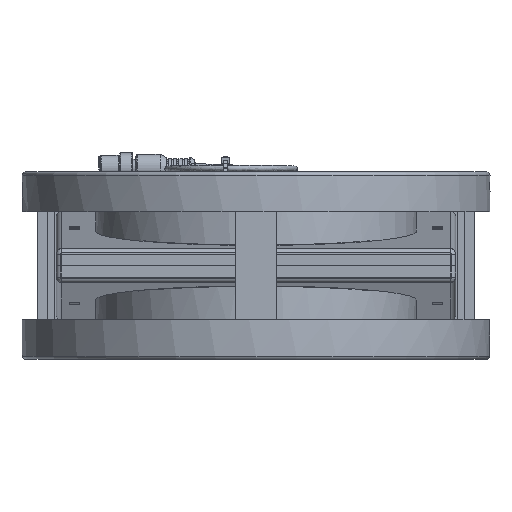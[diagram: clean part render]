
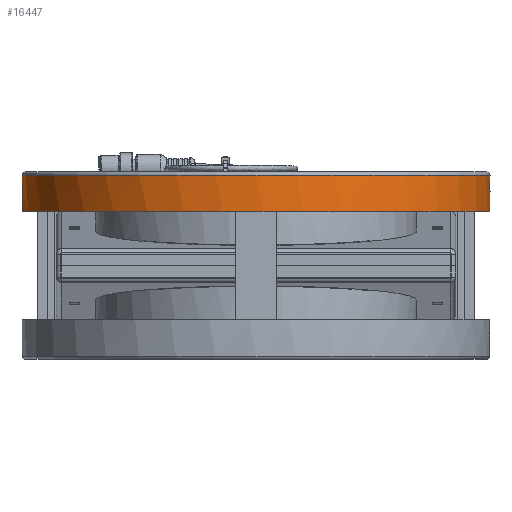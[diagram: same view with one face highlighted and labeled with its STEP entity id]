
A CAD part, front view. The second image highlights one B-rep face of the part: STEP entity #16447.
In plain terms, the highlighted cylindrical face has radius 112.4 mm (diameter 224.8 mm), a full revolution.
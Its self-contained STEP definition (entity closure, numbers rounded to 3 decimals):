
#4735=CIRCLE('',#57945,112.4);
#4736=CIRCLE('',#57948,112.4);
#4737=CIRCLE('',#57950,112.4);
#4738=CIRCLE('',#57953,112.4);
#14873=CYLINDRICAL_SURFACE('',#57955,112.4);
#15620=FACE_BOUND('',#22887,.T.);
#15621=FACE_BOUND('',#22888,.T.);
#15622=FACE_BOUND('',#22889,.T.);
#15623=FACE_BOUND('',#22890,.T.);
#16447=ADVANCED_FACE('',(#15620,#15621,#15622,#15623),#14873,.T.);
#22887=EDGE_LOOP('',(#26893,#26894,#26895));
#22888=EDGE_LOOP('',(#26896,#26897,#26898));
#22889=EDGE_LOOP('',(#26899));
#22890=EDGE_LOOP('',(#26900,#26901));
#25672=ELLIPSE('',#57947,224.8,112.4);
#25673=ELLIPSE('',#57949,224.8,112.4);
#25674=ELLIPSE('',#57951,224.8,112.4);
#25675=ELLIPSE('',#57952,224.8,112.4);
#25676=ELLIPSE('',#57954,112.829,112.4);
#26893=ORIENTED_EDGE('',*,*,#43949,.T.);
#26894=ORIENTED_EDGE('',*,*,#43950,.T.);
#26895=ORIENTED_EDGE('',*,*,#43951,.T.);
#26896=ORIENTED_EDGE('',*,*,#43952,.T.);
#26897=ORIENTED_EDGE('',*,*,#43953,.T.);
#26898=ORIENTED_EDGE('',*,*,#43954,.T.);
#26899=ORIENTED_EDGE('',*,*,#43955,.F.);
#26900=ORIENTED_EDGE('',*,*,#43948,.T.);
#26901=ORIENTED_EDGE('',*,*,#43956,.F.);
#39435=VERTEX_POINT('',#77294);
#39436=VERTEX_POINT('',#77295);
#39437=VERTEX_POINT('',#77299);
#39438=VERTEX_POINT('',#77300);
#39439=VERTEX_POINT('',#77302);
#39440=VERTEX_POINT('',#77305);
#39441=VERTEX_POINT('',#77306);
#39442=VERTEX_POINT('',#77308);
#39443=VERTEX_POINT('',#77311);
#43948=EDGE_CURVE('',#39436,#39435,#4735,.T.);
#43949=EDGE_CURVE('',#39437,#39438,#25672,.T.);
#43950=EDGE_CURVE('',#39438,#39439,#4736,.T.);
#43951=EDGE_CURVE('',#39439,#39437,#25673,.T.);
#43952=EDGE_CURVE('',#39440,#39441,#4737,.T.);
#43953=EDGE_CURVE('',#39441,#39442,#25674,.T.);
#43954=EDGE_CURVE('',#39442,#39440,#25675,.T.);
#43955=EDGE_CURVE('',#39443,#39443,#4738,.T.);
#43956=EDGE_CURVE('',#39436,#39435,#25676,.T.);
#57945=AXIS2_PLACEMENT_3D('',#77296,#63014,#63015);
#57947=AXIS2_PLACEMENT_3D('',#77298,#63018,#63019);
#57948=AXIS2_PLACEMENT_3D('',#77301,#63020,#63021);
#57949=AXIS2_PLACEMENT_3D('',#77303,#63022,#63023);
#57950=AXIS2_PLACEMENT_3D('',#77304,#63024,#63025);
#57951=AXIS2_PLACEMENT_3D('',#77307,#63026,#63027);
#57952=AXIS2_PLACEMENT_3D('',#77309,#63028,#63029);
#57953=AXIS2_PLACEMENT_3D('',#77310,#63030,#63031);
#57954=AXIS2_PLACEMENT_3D('',#77312,#63032,#63033);
#57955=AXIS2_PLACEMENT_3D('',#77313,#63034,#63035);
#63014=DIRECTION('',(-1.,0.,0.));
#63015=DIRECTION('',(0.,0.,1.));
#63018=DIRECTION('',(0.5,0.866,0.));
#63019=DIRECTION('',(-0.866,0.5,0.));
#63020=DIRECTION('',(-1.,0.,0.));
#63021=DIRECTION('',(0.,0.,1.));
#63022=DIRECTION('',(0.5,-0.866,0.));
#63023=DIRECTION('',(-0.866,-0.5,0.));
#63024=DIRECTION('',(-1.,0.,0.));
#63025=DIRECTION('',(0.,0.,1.));
#63026=DIRECTION('',(0.5,0.866,0.));
#63027=DIRECTION('',(-0.866,0.5,0.));
#63028=DIRECTION('',(0.5,-0.866,0.));
#63029=DIRECTION('',(-0.866,-0.5,0.));
#63030=DIRECTION('',(-1.,0.,0.));
#63031=DIRECTION('',(0.,0.,1.));
#63032=DIRECTION('',(0.996,0.087,0.));
#63033=DIRECTION('',(-0.087,0.996,0.));
#63034=DIRECTION('',(-1.,0.,0.));
#63035=DIRECTION('',(0.,0.,1.));
#77294=CARTESIAN_POINT('',(-26.,108.597,28.991));
#77295=CARTESIAN_POINT('',(-26.,108.597,-28.991));
#77296=CARTESIAN_POINT('',(-26.,0.,0.));
#77298=CARTESIAN_POINT('',(-35.5,0.,0.));
#77299=CARTESIAN_POINT('',(-35.5,0.,-112.4));
#77300=CARTESIAN_POINT('',(-40.,2.598,-112.37));
#77301=CARTESIAN_POINT('',(-40.,0.,0.));
#77302=CARTESIAN_POINT('',(-40.,-2.598,-112.37));
#77303=CARTESIAN_POINT('',(-35.5,0.,0.));
#77304=CARTESIAN_POINT('',(-40.,0.,0.));
#77305=CARTESIAN_POINT('',(-40.,-2.598,112.37));
#77306=CARTESIAN_POINT('',(-40.,2.598,112.37));
#77307=CARTESIAN_POINT('',(-35.5,0.,0.));
#77308=CARTESIAN_POINT('',(-35.5,0.,112.4));
#77309=CARTESIAN_POINT('',(-35.5,0.,0.));
#77310=CARTESIAN_POINT('',(-43.5,0.,0.));
#77311=CARTESIAN_POINT('',(-43.5,0.,112.4));
#77312=CARTESIAN_POINT('',(-16.499,0.,0.));
#77313=CARTESIAN_POINT('',(-45.,0.,0.));
